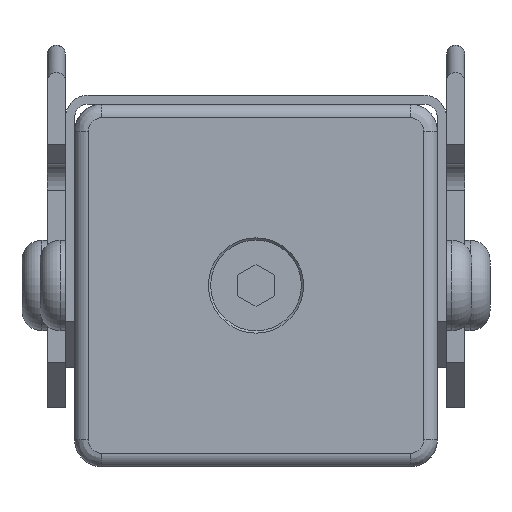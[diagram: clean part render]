
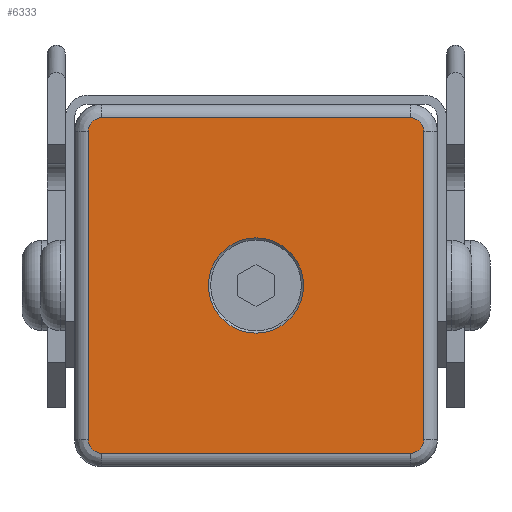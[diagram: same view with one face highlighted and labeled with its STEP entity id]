
A CAD part, front view. The second image highlights one B-rep face of the part: STEP entity #6333.
In plain terms, the highlighted planar face has unit normal (0, -1, 0).
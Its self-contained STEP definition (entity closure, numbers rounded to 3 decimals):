
#87=FACE_BOUND('',#836,.T.);
#197=PLANE('',#6775);
#473=FACE_OUTER_BOUND('',#835,.T.);
#835=EDGE_LOOP('',(#4909,#4910,#4911,#4912,#4913,#4914,#4915,#4916));
#836=EDGE_LOOP('',(#4917));
#1348=LINE('',#9601,#2050);
#1349=LINE('',#9620,#2051);
#1351=LINE('',#9640,#2053);
#1353=LINE('',#9660,#2055);
#2050=VECTOR('',#7721,10.);
#2051=VECTOR('',#7732,10.);
#2053=VECTOR('',#7744,10.);
#2055=VECTOR('',#7756,10.);
#2573=CIRCLE('',#6745,5.25);
#2579=CIRCLE('',#6753,1.5);
#2583=CIRCLE('',#6758,1.5);
#2587=CIRCLE('',#6763,1.5);
#2591=CIRCLE('',#6768,1.5);
#2931=VERTEX_POINT('',#9584);
#2934=VERTEX_POINT('',#9594);
#2937=VERTEX_POINT('',#9599);
#2939=VERTEX_POINT('',#9612);
#2941=VERTEX_POINT('',#9618);
#2943=VERTEX_POINT('',#9632);
#2945=VERTEX_POINT('',#9638);
#2947=VERTEX_POINT('',#9652);
#2949=VERTEX_POINT('',#9658);
#3637=EDGE_CURVE('',#2931,#2931,#2573,.T.);
#3645=EDGE_CURVE('',#2937,#2934,#1348,.T.);
#3647=EDGE_CURVE('',#2939,#2937,#2579,.T.);
#3650=EDGE_CURVE('',#2941,#2939,#1349,.T.);
#3653=EDGE_CURVE('',#2943,#2941,#2583,.T.);
#3656=EDGE_CURVE('',#2945,#2943,#1351,.T.);
#3659=EDGE_CURVE('',#2947,#2945,#2587,.T.);
#3662=EDGE_CURVE('',#2949,#2947,#1353,.T.);
#3665=EDGE_CURVE('',#2934,#2949,#2591,.T.);
#4909=ORIENTED_EDGE('',*,*,#3645,.F.);
#4910=ORIENTED_EDGE('',*,*,#3647,.F.);
#4911=ORIENTED_EDGE('',*,*,#3650,.F.);
#4912=ORIENTED_EDGE('',*,*,#3653,.F.);
#4913=ORIENTED_EDGE('',*,*,#3656,.F.);
#4914=ORIENTED_EDGE('',*,*,#3659,.F.);
#4915=ORIENTED_EDGE('',*,*,#3662,.F.);
#4916=ORIENTED_EDGE('',*,*,#3665,.F.);
#4917=ORIENTED_EDGE('',*,*,#3637,.T.);
#6333=ADVANCED_FACE('',(#473,#87),#197,.T.);
#6745=AXIS2_PLACEMENT_3D('',#9585,#7704,#7705);
#6753=AXIS2_PLACEMENT_3D('',#9614,#7724,#7725);
#6758=AXIS2_PLACEMENT_3D('',#9634,#7736,#7737);
#6763=AXIS2_PLACEMENT_3D('',#9654,#7748,#7749);
#6768=AXIS2_PLACEMENT_3D('',#9672,#7760,#7761);
#6775=AXIS2_PLACEMENT_3D('',#9691,#7781,#7782);
#7704=DIRECTION('center_axis',(0.,1.,0.));
#7705=DIRECTION('ref_axis',(1.,0.,0.));
#7721=DIRECTION('',(1.,0.,0.));
#7724=DIRECTION('center_axis',(0.,1.,0.));
#7725=DIRECTION('ref_axis',(-0.707,0.,0.707));
#7732=DIRECTION('',(0.,0.,1.));
#7736=DIRECTION('center_axis',(0.,1.,0.));
#7737=DIRECTION('ref_axis',(-0.707,0.,-0.707));
#7744=DIRECTION('',(-1.,0.,0.));
#7748=DIRECTION('center_axis',(0.,1.,0.));
#7749=DIRECTION('ref_axis',(0.707,0.,-0.707));
#7756=DIRECTION('',(0.,0.,-1.));
#7760=DIRECTION('center_axis',(0.,1.,0.));
#7761=DIRECTION('ref_axis',(0.707,0.,0.707));
#7781=DIRECTION('center_axis',(0.,-1.,0.));
#7782=DIRECTION('ref_axis',(0.,0.,-1.));
#9584=CARTESIAN_POINT('',(-5.25,-3.,0.));
#9585=CARTESIAN_POINT('Origin',(0.,-3.,0.));
#9594=CARTESIAN_POINT('',(17.,-3.,18.5));
#9599=CARTESIAN_POINT('',(-17.,-3.,18.5));
#9601=CARTESIAN_POINT('',(10.,-3.,18.5));
#9612=CARTESIAN_POINT('',(-18.5,-3.,17.));
#9614=CARTESIAN_POINT('Origin',(-17.,-3.,17.));
#9618=CARTESIAN_POINT('',(-18.5,-3.,-17.));
#9620=CARTESIAN_POINT('',(-18.5,-3.,10.));
#9632=CARTESIAN_POINT('',(-17.,-3.,-18.5));
#9634=CARTESIAN_POINT('Origin',(-17.,-3.,-17.));
#9638=CARTESIAN_POINT('',(17.,-3.,-18.5));
#9640=CARTESIAN_POINT('',(-10.,-3.,-18.5));
#9652=CARTESIAN_POINT('',(18.5,-3.,-17.));
#9654=CARTESIAN_POINT('Origin',(17.,-3.,-17.));
#9658=CARTESIAN_POINT('',(18.5,-3.,17.));
#9660=CARTESIAN_POINT('',(18.5,-3.,-10.));
#9672=CARTESIAN_POINT('Origin',(17.,-3.,17.));
#9691=CARTESIAN_POINT('Origin',(0.,-3.,0.));
